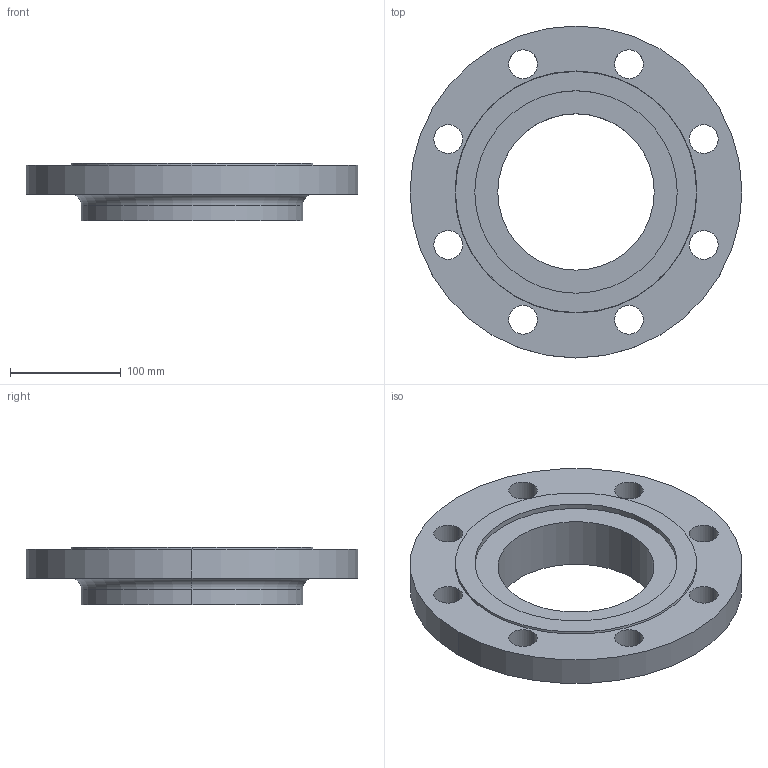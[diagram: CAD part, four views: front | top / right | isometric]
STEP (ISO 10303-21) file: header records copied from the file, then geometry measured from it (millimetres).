
FILE_DESCRIPTION (( 'STEP AP214' ), '1' );
FILE_NAME ('PN40 DN150 Type 13 - Type G Face.STEP', '2019-01-04T21:56:26', ( '' ), ( '' ), 'SwSTEP 2.0', 'SolidWorks 2019', '' );
FILE_SCHEMA (( 'AUTOMOTIVE_DESIGN' ));
Length unit declared in the file: millimetre
Products named in the file (1): PN40 DN150 Type 13 - Type G Face
Bounding box: 300 x 300 x 52 mm (x, y, z)
Volume: 1701121.9 mm3; surface area: 180313.8 mm2
Topology: 1 solids, 1 shells, 33 faces, 82 edges, 54 vertices
Faces by surface type: cylinder 24, plane 5, torus 2, cone 2
Entity records: 1086 total; most frequent: DIRECTION 206, CARTESIAN_POINT 170, ORIENTED_EDGE 164, AXIS2_PLACEMENT_3D 90, EDGE_CURVE 82, CIRCLE 56, VERTEX_POINT 54, EDGE_LOOP 54
